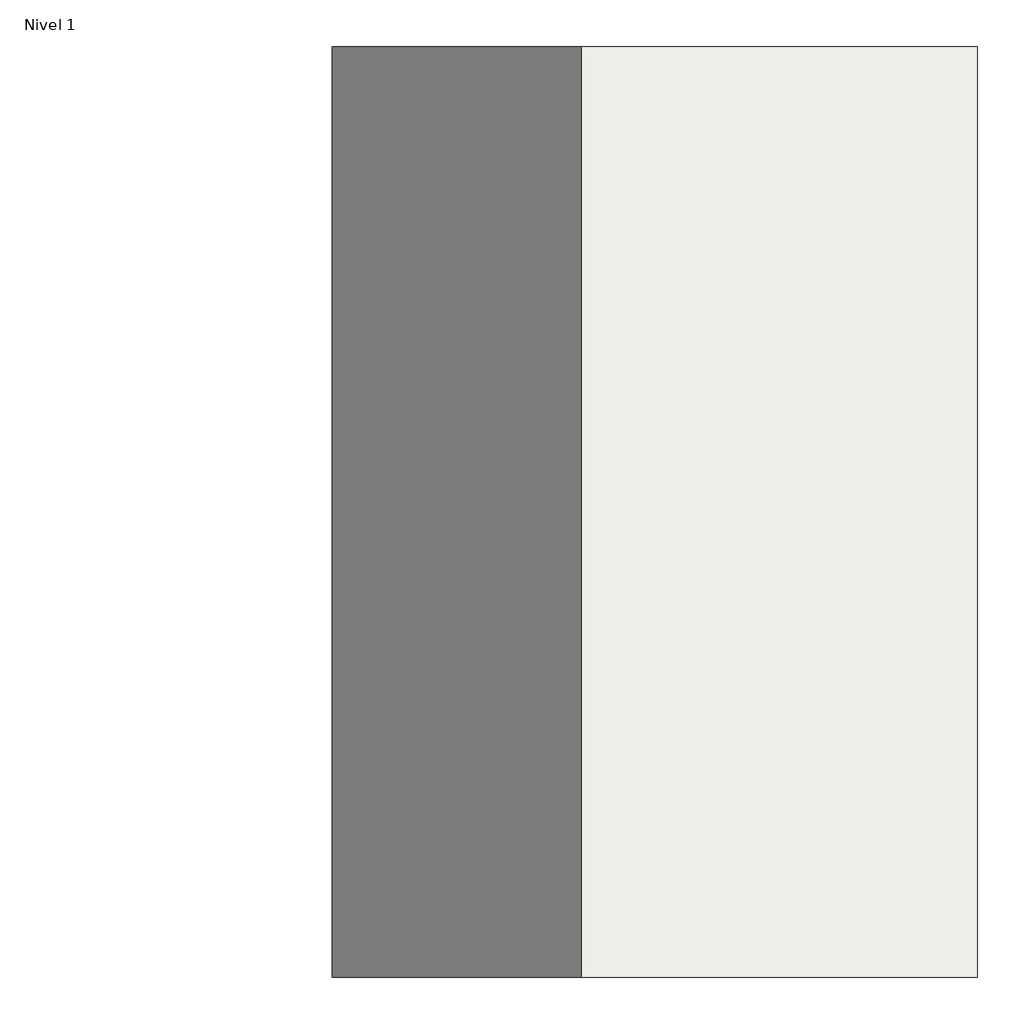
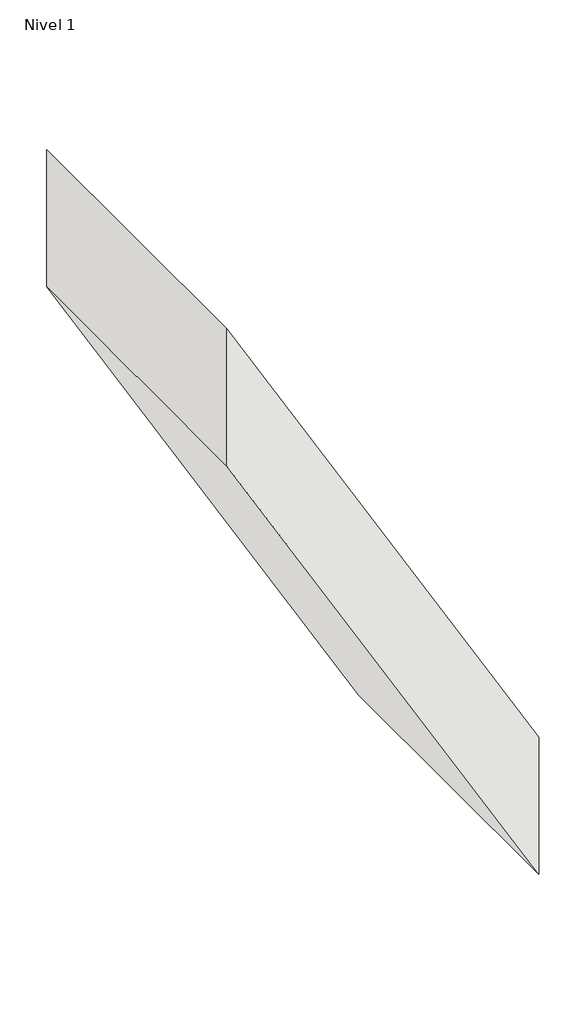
# One storey: 1 roof.
"""IFC4 building model written with IfcOpenShell, lengths in millimetres."""

from ifc_helpers import new_model, si_unit, frame, origin, place, context, project, spatial, polyline, outline, extrude, element, save

model = new_model("IFC4")

# Units and contexts
model_context = context("Model", 3, world=origin())
ifc_project = project(units=[si_unit("LENGTHUNIT", "METRE", prefix="MILLI")], contexts=[model_context])

# Site, building, storey
site = spatial("IfcSite", under=ifc_project)
building = spatial("IfcBuilding", under=site)
storey = spatial("IfcBuildingStorey", under=building, Name="Nivel 1", Elevation=0.0)

# Roof
placement = place(None, origin())
element("IfcRoof", 1, ObjectType="Soporte + aisl. poliuretano + Tablero + Rastreles + Pizarra", at=placement, inside=storey, context=model_context, shape_type="SweptSolid", body=[
    extrude(outline(polyline([(464.0, -3013.2553136), (2196.0508076, -4013.2553136), (1732.0508076, -4013.2553136), (0.0, -3013.2553136), (464.0, -3013.2553136)])), frame((0.0, 3631.8256744, 0.0), z_axis=(0.0, 1.0, 0.0), x_axis=(0.0, 0.0, 1.0)), (0.0, 0.0, 1.0), 1000.0),
])

save(model, "model.ifc")
